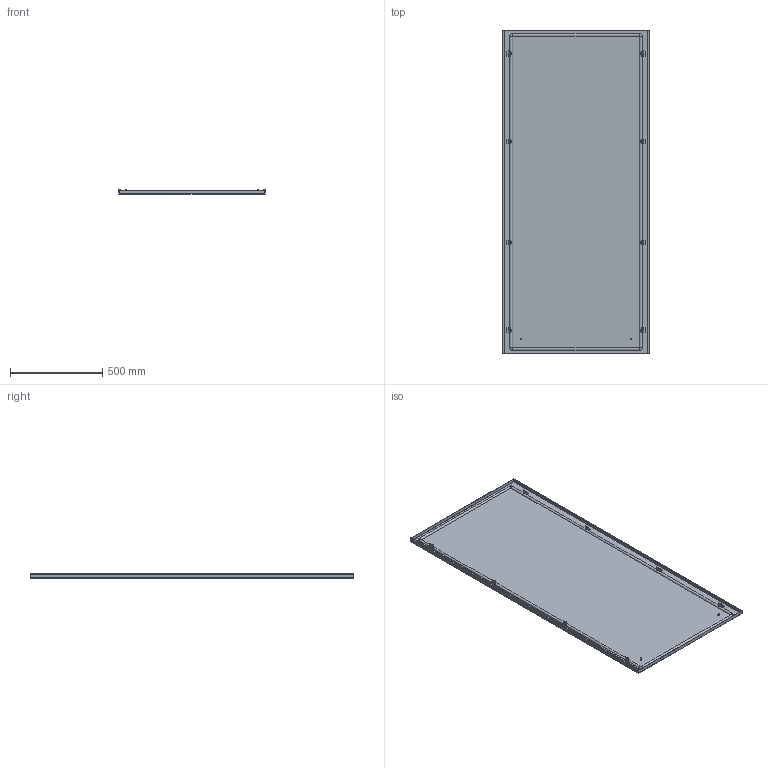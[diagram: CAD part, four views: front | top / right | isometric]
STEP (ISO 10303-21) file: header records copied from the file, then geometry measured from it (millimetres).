
FILE_DESCRIPTION(('Open CASCADE Model'),'2;1');
FILE_NAME('Open CASCADE Shape Model','2025-02-07T16:30:50',('Author'),( 'Open CASCADE'),'Open CASCADE STEP processor 7.8','Open CASCADE 7.8' ,'Unknown');
FILE_SCHEMA(('AUTOMOTIVE_DESIGN { 1 0 10303 214 1 1 1 1 }'));
Length unit declared in the file: millimetre
Products named in the file (10): Compound1; Compound2; Compound3; Solid1; Solid2; Solid3; Solid4; Solid5; Solid6; Solid7
Assembly tree (40 placements, depth 4):
  Compound1
    Compound2
      Compound3
        Solid1
        Solid2  x4
      Solid3
    Solid4  x8
    Solid5  x8
    Solid6  x8
    Solid7  x8
Bounding box: 794 x 1755 x 23.8 mm (x, y, z)
Volume: 2731798.2 mm3; surface area: 3273462.1 mm2
Topology: 38 solids, 38 shells, 1655 faces, 4040 edges, 2460 vertices
Faces by surface type: plane 1043, cone 308, cylinder 268, torus 25, bspline 8, revolution 3
Full cylindrical faces by diameter (mm): 5 x16, 6 x132, 7.5 x4, 8 x16, 10 x8, 11.57 x8
Entity records: 7823 total; most frequent: CARTESIAN_POINT 1513, DIRECTION 1262, ORIENTED_EDGE 1244, EDGE_CURVE 622, AXIS2_PLACEMENT_3D 425, LINE 409, VECTOR 409, VERTEX_POINT 387
